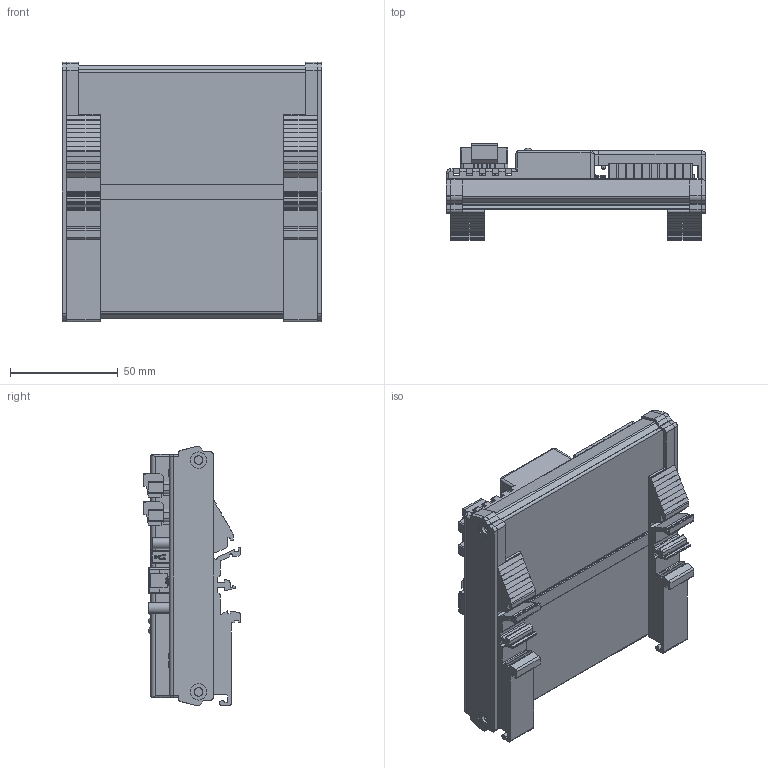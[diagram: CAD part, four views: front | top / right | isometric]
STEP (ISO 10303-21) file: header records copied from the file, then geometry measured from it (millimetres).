
FILE_DESCRIPTION (( 'STEP AP203' ), '1' );
FILE_NAME ('ASM for USB-5860-180831.STEP', '2018-08-31T10:12:58', ( '' ), ( '' ), 'SwSTEP 2.0', 'SolidWorks 2016', '' );
FILE_SCHEMA (( 'CONFIG_CONTROL_DESIGN' ));
Length unit declared in the file: millimetre
Products named in the file (21): 1600000400_默_; MK020-110B; Light pipe-LEAD-30M-5.5 PINGOOD; PCB for BOARD-1 AMAX-4830_USB-5860; 1652000049_默_; 1654009685_默_; PCB FOR MB BOARD AMAX-4830_USB-5800; COVER TOP-1 AMAX-4830; 1652005326_默_; pcb for board-1AMAX-4830; 1654010160-01_默_; 3_2; 2_2; 1653210202_默_; 1653001586; ASM for USB-5860-180831; 1652000045_默_; 1_2; MB BOARD AMAX-4830_USB-5800; AL Plate AMAX-4830_USB-5860; LENS-1 FOR LED AMAX-4830  
Assembly tree (27 placements, depth 3):
  ASM for USB-5860-180831
    MB BOARD AMAX-4830_USB-5800
      PCB FOR MB BOARD AMAX-4830_USB-5800
      1652000045_默_  x2
      1652000049_默_  x2
      1653210202_默_
      1600000400_默_
      1654009685_默_
      1654010160-01_默_
    COVER TOP-1 AMAX-4830
    MK020-110B
      1_2
      2_2
      3_2
    PCB for BOARD-1 AMAX-4830_USB-5860
      1652005326_默_  x3
      1653001586
      pcb for board-1AMAX-4830
    LENS-1 FOR LED AMAX-4830    x2
    Light pipe-LEAD-30M-5.5 PINGOOD  x3
    AL Plate AMAX-4830_USB-5860
Bounding box: 120 x 44.65 x 120.1 mm (x, y, z)
Volume: 138063.6 mm3; surface area: 145727.1 mm2
Topology: 26 solids, 26 shells, 6132 faces, 16661 edges, 10945 vertices
Faces by surface type: plane 4947, cylinder 948, bspline 165, sphere 40, cone 28, torus 4
Entity records: 172551 total; most frequent: CARTESIAN_POINT 39286, ORIENTED_EDGE 28136, DIRECTION 25276, EDGE_CURVE 14068, LINE 11892, VECTOR 11892, VERTEX_POINT 9249, AXIS2_PLACEMENT_3D 6692
